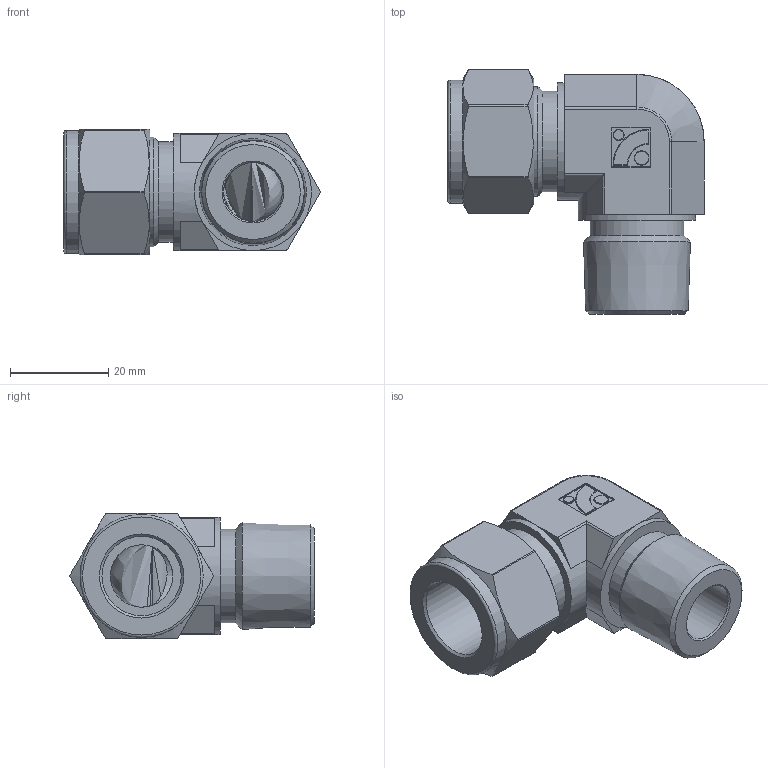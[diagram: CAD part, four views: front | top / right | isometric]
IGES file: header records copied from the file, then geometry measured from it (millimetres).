
Global section: file name: No Iges File Name specified; native system: Autodesk Inventor 2012; preprocessor: AutoDesk Inventor Iges Exporter R2012; author: 硅己绕,, ; organization: 11; date: 20150703.114321; units: millimetre
Bounding box: 52.09 x 49.72 x 25.4 mm (x, y, z)
Volume: 22505.2 mm3; surface area: 9636.7 mm2
Topology: 1 solids, 1 shells, 130 faces, 293 edges, 170 vertices
Faces by surface type: plane 42, cylinder 35, revolution 29, torus 12, cone 8, sphere 4
Full cylindrical faces by diameter (mm): 2.16 x1, 2.88 x1, 18.996 x1, 20.4 x1, 22.22 x1, 23.8 x2, 25 x1
